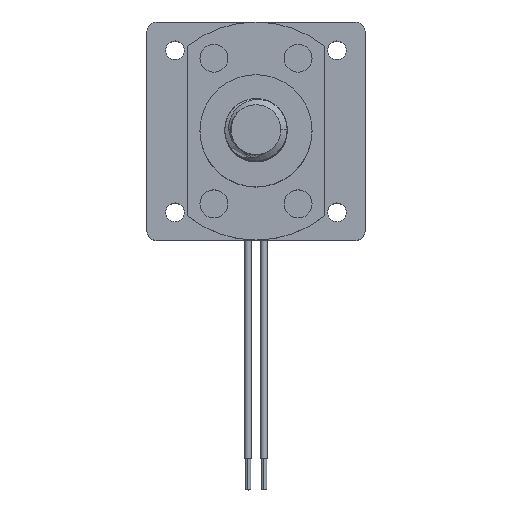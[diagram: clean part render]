
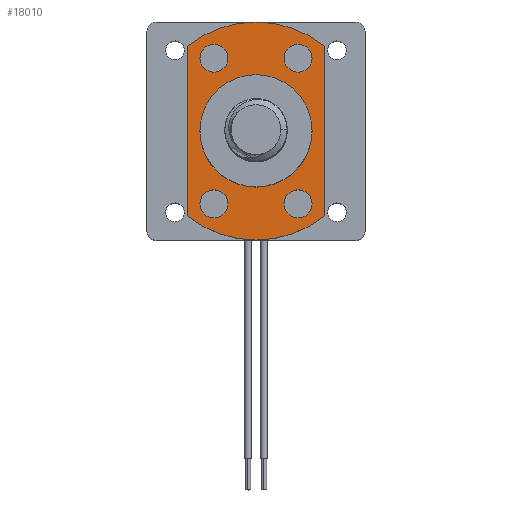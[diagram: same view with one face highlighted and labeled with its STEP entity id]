
A CAD part, top view. The second image highlights one B-rep face of the part: STEP entity #18010.
In plain terms, the highlighted planar face has unit normal (0, 0, 1).
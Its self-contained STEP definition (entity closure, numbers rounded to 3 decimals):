
#256 = EDGE_CURVE ( 'NONE', #9556, #513, #1421, .T. ) ;
#267 = FACE_BOUND ( 'NONE', #8471, .T. ) ;
#433 = AXIS2_PLACEMENT_3D ( 'NONE', #10084, #8456, #12978 ) ;
#513 = VERTEX_POINT ( 'NONE', #16172 ) ;
#533 = CIRCLE ( 'NONE', #16715, 9. ) ;
#540 = VERTEX_POINT ( 'NONE', #11478 ) ;
#545 = CIRCLE ( 'NONE', #6404, 2.25 ) ;
#961 = AXIS2_PLACEMENT_3D ( 'NONE', #9297, #1505, #15287 ) ;
#1081 = AXIS2_PLACEMENT_3D ( 'NONE', #16276, #2777, #19320 ) ;
#1224 = DIRECTION ( 'NONE',  ( 1., 0., 0. ) ) ;
#1421 = LINE ( 'NONE', #18653, #16988 ) ;
#1505 = DIRECTION ( 'NONE',  ( 0., 0., 1. ) ) ;
#1751 = CIRCLE ( 'NONE', #12095, 2.25 ) ;
#1974 = EDGE_CURVE ( 'NONE', #15130, #540, #17358, .T. ) ;
#2156 = ORIENTED_EDGE ( 'NONE', *, *, #8239, .F. ) ;
#2353 = EDGE_CURVE ( 'NONE', #17264, #9556, #19506, .T. ) ;
#2389 = CIRCLE ( 'NONE', #961, 2.25 ) ;
#2639 = CARTESIAN_POINT ( 'NONE',  ( -6.75, -11.691, 72. ) ) ;
#2664 = CIRCLE ( 'NONE', #1081, 2.25 ) ;
#2738 = DIRECTION ( 'NONE',  ( 1., 0., 0. ) ) ;
#2777 = DIRECTION ( 'NONE',  ( 0., 0., 1. ) ) ;
#2891 = EDGE_LOOP ( 'NONE', ( #10793, #9964, #8273, #17085 ) ) ;
#3042 = CARTESIAN_POINT ( 'NONE',  ( 9., 11.691, 72. ) ) ;
#3198 = DIRECTION ( 'NONE',  ( 0., 0., 1. ) ) ;
#3590 = LINE ( 'NONE', #4999, #15632 ) ;
#3830 = ORIENTED_EDGE ( 'NONE', *, *, #1974, .F. ) ;
#3832 = ORIENTED_EDGE ( 'NONE', *, *, #14489, .F. ) ;
#4300 = FACE_BOUND ( 'NONE', #16252, .T. ) ;
#4546 = DIRECTION ( 'NONE',  ( 0., 0., 1. ) ) ;
#4586 = VERTEX_POINT ( 'NONE', #9243 ) ;
#4752 = VERTEX_POINT ( 'NONE', #15302 ) ;
#4755 = ORIENTED_EDGE ( 'NONE', *, *, #12711, .F. ) ;
#4790 = EDGE_LOOP ( 'NONE', ( #4755, #2156 ) ) ;
#4999 = CARTESIAN_POINT ( 'NONE',  ( 11., 13.611, 72. ) ) ;
#5280 = EDGE_CURVE ( 'NONE', #4586, #15390, #17559, .T. ) ;
#5384 = VERTEX_POINT ( 'NONE', #7635 ) ;
#5520 = CIRCLE ( 'NONE', #12040, 2.25 ) ;
#5847 = CARTESIAN_POINT ( 'NONE',  ( 9., -11.691, 72. ) ) ;
#5894 = EDGE_LOOP ( 'NONE', ( #18933, #3832 ) ) ;
#5900 = DIRECTION ( 'NONE',  ( 1., 0., 0. ) ) ;
#6404 = AXIS2_PLACEMENT_3D ( 'NONE', #16314, #14931, #5900 ) ;
#6874 = FACE_BOUND ( 'NONE', #4790, .T. ) ;
#6899 = VERTEX_POINT ( 'NONE', #3042 ) ;
#7027 = AXIS2_PLACEMENT_3D ( 'NONE', #9707, #9642, #12484 ) ;
#7522 = DIRECTION ( 'NONE',  ( 1., 0., 0. ) ) ;
#7622 = DIRECTION ( 'NONE',  ( 1., 0., 0. ) ) ;
#7635 = CARTESIAN_POINT ( 'NONE',  ( -4.5, -11.691, 72. ) ) ;
#7824 = FACE_BOUND ( 'NONE', #19582, .T. ) ;
#8239 = EDGE_CURVE ( 'NONE', #17220, #4752, #1751, .T. ) ;
#8273 = ORIENTED_EDGE ( 'NONE', *, *, #2353, .T. ) ;
#8302 = AXIS2_PLACEMENT_3D ( 'NONE', #9026, #19571, #12043 ) ;
#8456 = DIRECTION ( 'NONE',  ( 0., 0., 1. ) ) ;
#8471 = EDGE_LOOP ( 'NONE', ( #13868, #3830 ) ) ;
#8561 = VERTEX_POINT ( 'NONE', #12432 ) ;
#9026 = CARTESIAN_POINT ( 'NONE',  ( -6.75, 11.691, 72. ) ) ;
#9169 = AXIS2_PLACEMENT_3D ( 'NONE', #12271, #3198, #7522 ) ;
#9243 = CARTESIAN_POINT ( 'NONE',  ( -9., 11.691, 72. ) ) ;
#9268 = CIRCLE ( 'NONE', #9397, 2.25 ) ;
#9297 = CARTESIAN_POINT ( 'NONE',  ( 6.75, 11.691, 72. ) ) ;
#9327 = CARTESIAN_POINT ( 'NONE',  ( -11., 13.611, 72. ) ) ;
#9397 = AXIS2_PLACEMENT_3D ( 'NONE', #13212, #17755, #1224 ) ;
#9556 = VERTEX_POINT ( 'NONE', #9327 ) ;
#9642 = DIRECTION ( 'NONE',  ( 0., 0., 1. ) ) ;
#9677 = CARTESIAN_POINT ( 'NONE',  ( -9., -11.691, 72. ) ) ;
#9707 = CARTESIAN_POINT ( 'NONE',  ( 0., 0., 72. ) ) ;
#9964 = ORIENTED_EDGE ( 'NONE', *, *, #16092, .T. ) ;
#10084 = CARTESIAN_POINT ( 'NONE',  ( 0., 0., 72. ) ) ;
#10185 = VERTEX_POINT ( 'NONE', #9677 ) ;
#10270 = CARTESIAN_POINT ( 'NONE',  ( -4.5, 11.691, 72. ) ) ;
#10296 = DIRECTION ( 'NONE',  ( 0., 0., 1. ) ) ;
#10561 = CARTESIAN_POINT ( 'NONE',  ( 0., 0., 72. ) ) ;
#10785 = AXIS2_PLACEMENT_3D ( 'NONE', #2639, #12920, #11593 ) ;
#10793 = ORIENTED_EDGE ( 'NONE', *, *, #19429, .T. ) ;
#10865 = FACE_BOUND ( 'NONE', #5894, .T. ) ;
#10926 = DIRECTION ( 'NONE',  ( 0., -1., 0. ) ) ;
#11478 = CARTESIAN_POINT ( 'NONE',  ( -9., 0., 72. ) ) ;
#11593 = DIRECTION ( 'NONE',  ( 1., 0., 0. ) ) ;
#11673 = AXIS2_PLACEMENT_3D ( 'NONE', #10561, #16762, #16638 ) ;
#11832 = ORIENTED_EDGE ( 'NONE', *, *, #18641, .F. ) ;
#12040 = AXIS2_PLACEMENT_3D ( 'NONE', #16180, #10296, #2738 ) ;
#12043 = DIRECTION ( 'NONE',  ( 1., 0., 0. ) ) ;
#12095 = AXIS2_PLACEMENT_3D ( 'NONE', #12103, #4546, #7622 ) ;
#12103 = CARTESIAN_POINT ( 'NONE',  ( 6.75, -11.691, 72. ) ) ;
#12271 = CARTESIAN_POINT ( 'NONE',  ( 0., 0., 72. ) ) ;
#12432 = CARTESIAN_POINT ( 'NONE',  ( 11., -13.611, 72. ) ) ;
#12484 = DIRECTION ( 'NONE',  ( 1., 0., 0. ) ) ;
#12711 = EDGE_CURVE ( 'NONE', #4752, #17220, #545, .T. ) ;
#12765 = FACE_OUTER_BOUND ( 'NONE', #2891, .T. ) ;
#12869 = CIRCLE ( 'NONE', #7027, 17.5 ) ;
#12920 = DIRECTION ( 'NONE',  ( 0., 0., 1. ) ) ;
#12978 = DIRECTION ( 'NONE',  ( 1., 0., 0. ) ) ;
#13212 = CARTESIAN_POINT ( 'NONE',  ( -6.75, -11.691, 72. ) ) ;
#13224 = CARTESIAN_POINT ( 'NONE',  ( 0., 0., 72. ) ) ;
#13236 = CIRCLE ( 'NONE', #10785, 2.25 ) ;
#13284 = CARTESIAN_POINT ( 'NONE',  ( 11., 13.611, 72. ) ) ;
#13601 = ORIENTED_EDGE ( 'NONE', *, *, #16228, .F. ) ;
#13868 = ORIENTED_EDGE ( 'NONE', *, *, #15533, .F. ) ;
#14489 = EDGE_CURVE ( 'NONE', #5384, #10185, #9268, .T. ) ;
#14931 = DIRECTION ( 'NONE',  ( 0., 0., 1. ) ) ;
#15130 = VERTEX_POINT ( 'NONE', #15919 ) ;
#15287 = DIRECTION ( 'NONE',  ( 1., 0., 0. ) ) ;
#15302 = CARTESIAN_POINT ( 'NONE',  ( 4.5, -11.691, 72. ) ) ;
#15390 = VERTEX_POINT ( 'NONE', #10270 ) ;
#15533 = EDGE_CURVE ( 'NONE', #540, #15130, #533, .T. ) ;
#15582 = DIRECTION ( 'NONE',  ( 0., 1., 0. ) ) ;
#15632 = VECTOR ( 'NONE', #15582, 1000. ) ;
#15919 = CARTESIAN_POINT ( 'NONE',  ( 9., 0., 72. ) ) ;
#16047 = ORIENTED_EDGE ( 'NONE', *, *, #16843, .F. ) ;
#16092 = EDGE_CURVE ( 'NONE', #8561, #17264, #3590, .T. ) ;
#16172 = CARTESIAN_POINT ( 'NONE',  ( -11., -13.611, 72. ) ) ;
#16180 = CARTESIAN_POINT ( 'NONE',  ( -6.75, 11.691, 72. ) ) ;
#16228 = EDGE_CURVE ( 'NONE', #15390, #4586, #5520, .T. ) ;
#16252 = EDGE_LOOP ( 'NONE', ( #11832, #16047 ) ) ;
#16266 = DIRECTION ( 'NONE',  ( 1., 0., 0. ) ) ;
#16276 = CARTESIAN_POINT ( 'NONE',  ( 6.75, 11.691, 72. ) ) ;
#16314 = CARTESIAN_POINT ( 'NONE',  ( 6.75, -11.691, 72. ) ) ;
#16638 = DIRECTION ( 'NONE',  ( 1., 0., 0. ) ) ;
#16715 = AXIS2_PLACEMENT_3D ( 'NONE', #13224, #19447, #16266 ) ;
#16762 = DIRECTION ( 'NONE',  ( 0., 0., 1. ) ) ;
#16843 = EDGE_CURVE ( 'NONE', #6899, #17711, #2664, .T. ) ;
#16988 = VECTOR ( 'NONE', #10926, 1000. ) ;
#17085 = ORIENTED_EDGE ( 'NONE', *, *, #256, .T. ) ;
#17220 = VERTEX_POINT ( 'NONE', #5847 ) ;
#17264 = VERTEX_POINT ( 'NONE', #13284 ) ;
#17358 = CIRCLE ( 'NONE', #433, 9. ) ;
#17559 = CIRCLE ( 'NONE', #8302, 2.25 ) ;
#17711 = VERTEX_POINT ( 'NONE', #18705 ) ;
#17755 = DIRECTION ( 'NONE',  ( 0., 0., 1. ) ) ;
#18010 = ADVANCED_FACE ( 'NONE', ( #10865, #7824, #12765, #4300, #6874, #267 ), #19341, .T. ) ;
#18199 = ORIENTED_EDGE ( 'NONE', *, *, #5280, .F. ) ;
#18378 = EDGE_CURVE ( 'NONE', #10185, #5384, #13236, .T. ) ;
#18641 = EDGE_CURVE ( 'NONE', #17711, #6899, #2389, .T. ) ;
#18653 = CARTESIAN_POINT ( 'NONE',  ( -11., 13.611, 72. ) ) ;
#18705 = CARTESIAN_POINT ( 'NONE',  ( 4.5, 11.691, 72. ) ) ;
#18933 = ORIENTED_EDGE ( 'NONE', *, *, #18378, .F. ) ;
#19320 = DIRECTION ( 'NONE',  ( 1., 0., 0. ) ) ;
#19341 = PLANE ( 'NONE',  #9169 ) ;
#19429 = EDGE_CURVE ( 'NONE', #513, #8561, #12869, .T. ) ;
#19447 = DIRECTION ( 'NONE',  ( 0., 0., 1. ) ) ;
#19506 = CIRCLE ( 'NONE', #11673, 17.5 ) ;
#19571 = DIRECTION ( 'NONE',  ( 0., 0., 1. ) ) ;
#19582 = EDGE_LOOP ( 'NONE', ( #18199, #13601 ) ) ;
